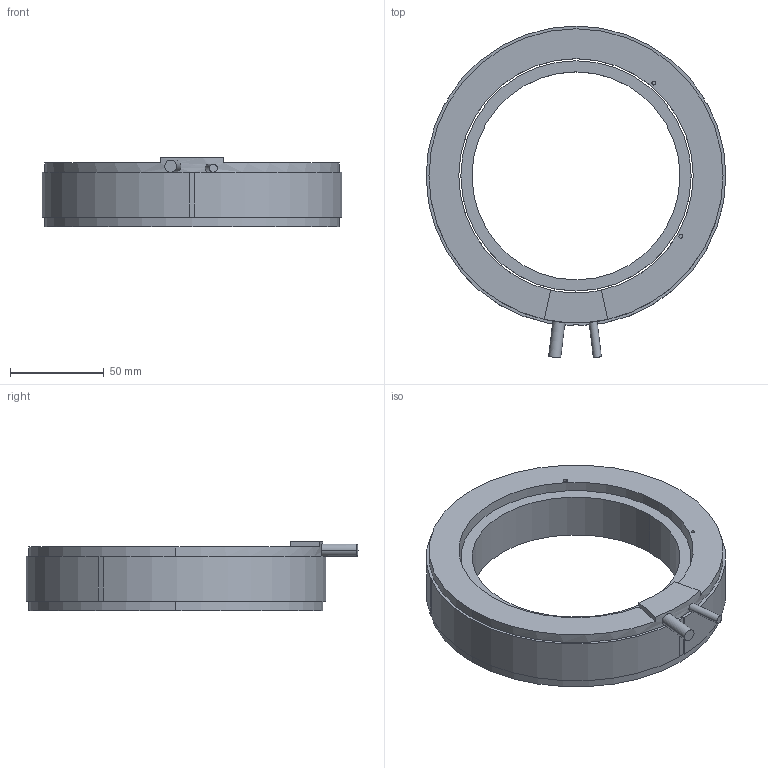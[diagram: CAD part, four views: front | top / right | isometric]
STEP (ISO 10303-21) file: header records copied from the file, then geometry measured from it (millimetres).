
FILE_DESCRIPTION (( 'STEP AP203' ), '1' );
FILE_NAME ('TM160-34 3D.STEP', '2024-01-12T03:04:22', ( '' ), ( '' ), 'SwSTEP 2.0', 'SolidWorks 2021', '' );
FILE_SCHEMA (( 'CONFIG_CONTROL_DESIGN' ));
Length unit declared in the file: millimetre
Products named in the file (1): TM160-34 3D
Bounding box: 160 x 177.21 x 37 mm (x, y, z)
Volume: 314266.7 mm3; surface area: 69448.4 mm2
Topology: 2 solids, 2 shells, 44 faces, 105 edges, 70 vertices
Faces by surface type: cylinder 22, plane 22
Entity records: 1492 total; most frequent: CARTESIAN_POINT 344, DIRECTION 235, ORIENTED_EDGE 210, EDGE_CURVE 105, AXIS2_PLACEMENT_3D 89, VERTEX_POINT 70, VECTOR 57, LINE 57
